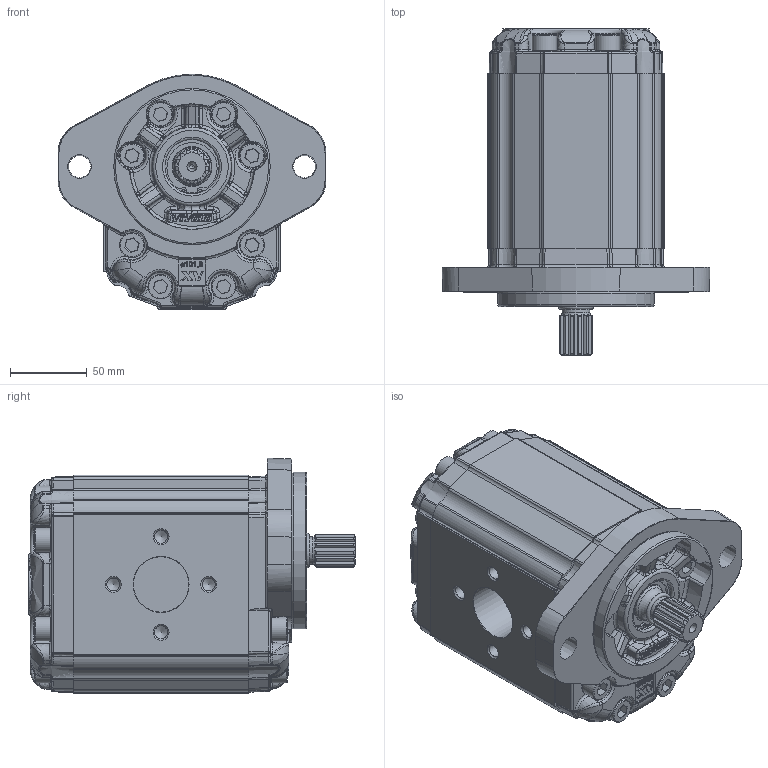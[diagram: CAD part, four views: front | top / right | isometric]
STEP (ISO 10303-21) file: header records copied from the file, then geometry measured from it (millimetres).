
FILE_DESCRIPTION(/* description */ ('Unknown'),/* implementation_level */ '2;1');
FILE_NAME(/* name */ 'X3M8731ICCE',/* time_stamp */ '2021-04-26T12:12:46+02:00',/* author */ ('Unknown'),/* organization */ ('Unknown'),/* preprocessor_version */ 'ST-DEVELOPER v16.7',/* originating_system */ 'Solid Edge',/* authorisation */ 'Unknown');
FILE_SCHEMA (('AUTOMOTIVE_DESIGN {1 0 10303 214 3 1 1}'));
Products named in the file (5): X3M8731ICCE; X3M31; 3I; X3CCH114; XM331-E
Assembly tree (4 placements, depth 2):
  X3M8731ICCE
    X3M31
    3I
    X3CCH114
    XM331-E
Bounding box: 174 x 212.2 x 153 mm (x, y, z)
Volume: 2453400.3 mm3; surface area: 221096.4 mm2
Topology: 4 solids, 21 shells, 2464 faces, 6311 edges, 3984 vertices
Faces by surface type: bspline 1018, plane 715, cylinder 509, cone 107, torus 99, sphere 16
Full cylindrical faces by diameter (mm): 2 x2, 8.376 x8, 10 x16, 15.25 x1, 15.8 x16, 16 x16, 18 x2, 24.98 x1, 25.5 x1, 26.8 x1, 29.425 x1, 31.42 x1, 33.304 x1, 34.7 x1, 35 x2, 35.2 x1, 36 x2, 37 x1, 101.6 x1
Entity records: 136301 total; most frequent: CARTESIAN_POINT 71470, ORIENTED_EDGE 12146, EDGE_CURVE 6073, DIRECTION 5742, VERTEX_POINT 3917, B_SPLINE_CURVE_WITH_KNOTS 3782, FACE_BOUND 2742, EDGE_LOOP 2732
